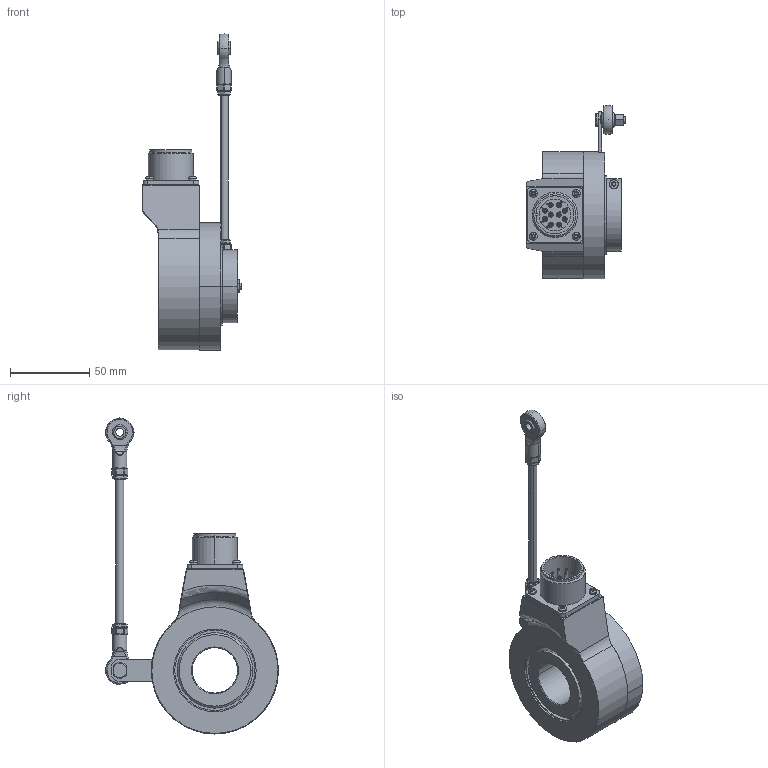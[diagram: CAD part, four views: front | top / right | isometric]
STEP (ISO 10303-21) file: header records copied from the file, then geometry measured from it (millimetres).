
FILE_DESCRIPTION (( 'STEP AP203' ), '1' );
FILE_NAME ('K80I.OXX.XXXXX.XH1788A.6XRCE.step', '2025-12-09T08:53:30', ( '' ), ( '' ), 'SwSTEP 2.0', 'SolidWorks 2021', '' );
FILE_SCHEMA (( 'CONFIG_CONTROL_DESIGN' ));
Length unit declared in the file: millimetre
Products named in the file (1): K80I.OXX.XXXXX.XH1788A.6XRCE
Bounding box: 62.6 x 108.97 x 199.07 mm (x, y, z)
Volume: 237026.4 mm3; surface area: 69701.7 mm2
Topology: 14 solids, 14 shells, 855 faces, 2129 edges, 1335 vertices
Faces by surface type: plane 326, cylinder 263, bspline 107, cone 91, torus 54, sphere 14
Entity records: 30796 total; most frequent: CARTESIAN_POINT 10865, ORIENTED_EDGE 4182, DIRECTION 4083, EDGE_CURVE 2091, AXIS2_PLACEMENT_3D 1563, VERTEX_POINT 1331, LINE 957, VECTOR 957
